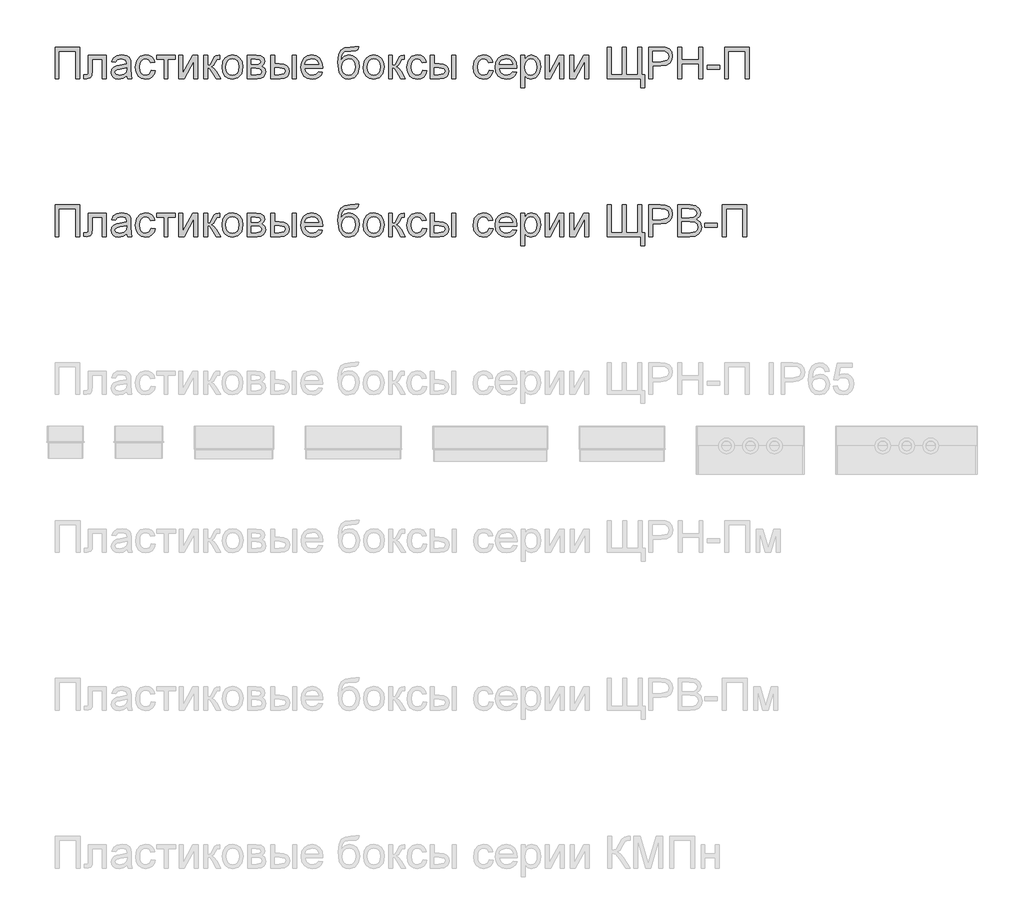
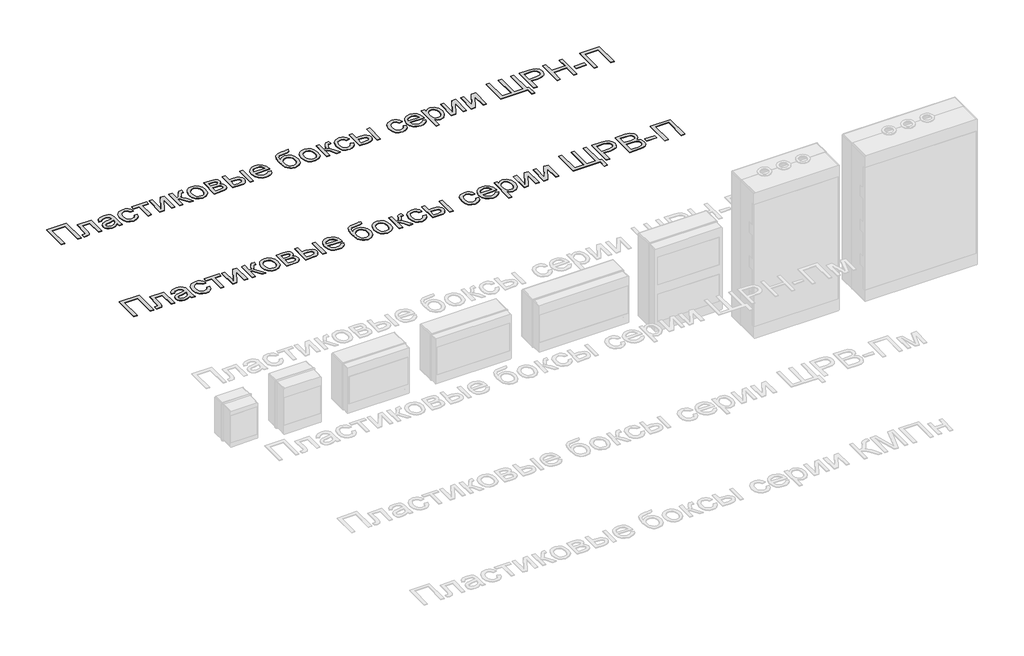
# One storey, part 25 of 25: 2 proxies.
"""IFC4 building model written with IfcOpenShell, lengths in millimetres."""

from ifc_helpers import new_model, si_unit, frame, origin, place, context, project, spatial, polyline, outline, extrude, element, save

model = new_model("IFC4")

# Units and contexts
model_context = context("Model", 3, world=origin())
ifc_project = project(units=[si_unit("LENGTHUNIT", "METRE", prefix="MILLI")], contexts=[model_context])

# Site, building, storey
site = spatial("IfcSite", under=ifc_project)
building = spatial("IfcBuilding", under=site)
storey = spatial("IfcBuildingStorey", under=building, Name="Этаж 01", Elevation=0.0)

# Proxies
placement = place(None, origin())
element("IfcBuildingElementProxy", 1, Name="Надпись на модели 1", ObjectType="Надпись на модели 1", at=placement, inside=storey, context=model_context, shape_type="SweptSolid", body=[
    extrude(outline(polyline([(-19039.0125911, 18636.6915941), (-18960.5310988, 18636.6915941), (-18960.5310988, 18536.235284), (-18973.0881375, 18536.235284), (-18973.0881375, 18624.1345554), (-19026.4555523, 18624.1345554), (-19026.4555523, 18536.235284), (-19039.0125911, 18536.235284), (-19039.0125911, 18636.6915941)])), frame((0.0, 0.0, 40.0), z_axis=(0.0, 0.0, 1.0), x_axis=(1.0, 0.0, 0.0)), (0.0, 0.0, 1.0), 2.0),
    extrude(outline(polyline([(-18933.8473914, 18610.0078868), (-18877.3407169, 18610.0078868), (-18877.3407169, 18536.3088604), (-18889.8977557, 18536.3088604), (-18889.8977557, 18597.450848), (-18921.2903526, 18597.450848), (-18921.2903526, 18562.2568038), (-18922.1364812, 18546.0209451), (-18926.7840571, 18539.1660772), (-18937.771466, 18536.235284), (-18947.97406, 18536.8729461), (-18947.97406, 18548.7923228), (-18942.3577282, 18548.7923228), (-18936.6800828, 18549.564875), (-18934.4114771, 18552.0174216), (-18933.8473914, 18562.9680423), (-18933.8473914, 18610.0078868)])), frame((0.0, 0.0, 40.0), z_axis=(0.0, 0.0, 1.0), x_axis=(1.0, 0.0, 0.0)), (0.0, 0.0, 1.0), 2.0),
    extrude(outline(polyline([(-18811.4162634, 18545.6530631), (-18823.5931574, 18537.1427262), (-18837.0453757, 18534.6656541), (-18847.5392096, 18536.1555762), (-18855.28006, 18540.6253425), (-18860.0533288, 18547.4127653), (-18861.6444185, 18555.8556571), (-18859.2409228, 18565.7884709), (-18852.9256152, 18572.998958), (-18844.1332355, 18577.1192364), (-18833.2684539, 18579.0076973), (-18811.4898398, 18583.3241794), (-18811.4162634, 18586.1200825), (-18814.8743541, 18595.3907088), (-18828.7557681, 18599.0204778), (-18841.4599597, 18596.6047194), (-18847.5177499, 18588.0330689), (-18860.0747886, 18589.6026988), (-18854.6423978, 18601.8654319), (-18843.7040398, 18609.0513936), (-18827.1370873, 18611.5775166), (-18811.9190355, 18609.3456992), (-18803.3228595, 18603.7416301), (-18799.4723613, 18595.2190306), (-18798.8592246, 18584.2316216), (-18798.8592246, 18568.6088996), (-18798.2215625, 18546.7934973), (-18795.7199649, 18536.235284), (-18808.2770037, 18536.235284), (-18811.4162634, 18545.6530631)]), holes=[polyline([(-18811.4162634, 18570.7671406), (-18831.6742986, 18566.9166424), (-18842.4777665, 18564.8810287), (-18847.3705971, 18561.5700907), (-18849.0873797, 18556.7385739), (-18845.3472461, 18549.9450197), (-18834.3720999, 18547.2226929), (-18821.6679083, 18550.2270625), (-18813.4764026, 18557.4988633), (-18811.4898398, 18567.210948), (-18811.4162634, 18570.7671406)])]), frame((0.0, 0.0, 40.0), z_axis=(0.0, 0.0, 1.0), x_axis=(1.0, 0.0, 0.0)), (0.0, 0.0, 1.0), 2.0),
    extrude(outline(polyline([(-18734.5044009, 18562.9189914), (-18721.9473622, 18561.3493615), (-18725.4483725, 18550.1810773), (-18732.0273288, 18541.7412512), (-18741.0649632, 18536.4345534), (-18751.9420075, 18534.6656541), (-18765.2991896, 18537.1335292), (-18775.7439726, 18544.5371544), (-18782.4854102, 18556.5515672), (-18784.732556, 18572.8518052), (-18780.8943205, 18593.7107144), (-18769.1956731, 18607.1138817), (-18752.1136858, 18611.5775166), (-18741.5033559, 18610.044675), (-18733.0206102, 18605.44615), (-18726.9352289, 18598.0271964), (-18723.516992, 18588.0330689), (-18736.0740308, 18586.4634391), (-18741.898829, 18595.8689554), (-18752.0155839, 18599.0204778), (-18760.1304476, 18597.4692421), (-18766.5714482, 18592.8155349), (-18770.7745, 18584.8079701), (-18772.1755172, 18573.1951618), (-18770.8051568, 18561.4260036), (-18766.6940755, 18553.3908477), (-18760.3695709, 18548.7647316), (-18752.3589404, 18547.2226929), (-18740.5254029, 18551.0731911), (-18734.5044009, 18562.9189914)])), frame((0.0, 0.0, 40.0), z_axis=(0.0, 0.0, 1.0), x_axis=(1.0, 0.0, 0.0)), (0.0, 0.0, 1.0), 2.0),
    extrude(outline(polyline([(-18717.2384726, 18610.0078868), (-18657.5925385, 18610.0078868), (-18657.5925385, 18597.450848), (-18681.1369862, 18597.450848), (-18681.1369862, 18536.235284), (-18693.6940249, 18536.235284), (-18693.6940249, 18597.450848), (-18717.2384726, 18597.450848), (-18717.2384726, 18610.0078868)])), frame((0.0, 0.0, 40.0), z_axis=(0.0, 0.0, 1.0), x_axis=(1.0, 0.0, 0.0)), (0.0, 0.0, 1.0), 2.0),
    extrude(outline(polyline([(-18646.6051296, 18610.0078868), (-18634.0480908, 18610.0078868), (-18634.0480908, 18553.746467), (-18603.1950541, 18610.0078868), (-18586.9591954, 18610.0078868), (-18586.9591954, 18536.235284), (-18599.5162342, 18536.235284), (-18599.5162342, 18592.1533473), (-18630.1730671, 18536.235284), (-18646.6051296, 18536.235284), (-18646.6051296, 18610.0078868)])), frame((0.0, 0.0, 40.0), z_axis=(0.0, 0.0, 1.0), x_axis=(1.0, 0.0, 0.0)), (0.0, 0.0, 1.0), 2.0),
    extrude(outline(polyline([(-18568.1236373, 18610.0078868), (-18555.5665985, 18610.0078868), (-18555.5665985, 18578.6152898), (-18547.1543635, 18580.8716327), (-18540.2627075, 18594.0172827), (-18534.5360111, 18605.3603109), (-18529.483765, 18609.0513936), (-18520.2989779, 18610.0078868), (-18517.8954822, 18610.0078868), (-18517.8954822, 18597.3772716), (-18521.2799965, 18597.450848), (-18527.4113631, 18596.1264728), (-18531.7278452, 18587.8613906), (-18536.792354, 18578.9218582), (-18543.8924765, 18574.5440624), (-18535.9707509, 18569.6573633), (-18528.196178, 18559.3627988), (-18514.7562225, 18536.235284), (-18529.0300439, 18536.235284), (-18542.2002193, 18558.8722894), (-18548.8220952, 18568.449484), (-18555.5665985, 18570.7671406), (-18555.5665985, 18536.235284), (-18568.1236373, 18536.235284), (-18568.1236373, 18610.0078868)])), frame((0.0, 0.0, 40.0), z_axis=(0.0, 0.0, 1.0), x_axis=(1.0, 0.0, 0.0)), (0.0, 0.0, 1.0), 2.0),
    extrude(outline(polyline([(-18510.0473329, 18573.1215854), (-18507.3311375, 18590.9086798), (-18499.1825514, 18603.4105363), (-18489.1148474, 18609.5357715), (-18477.0605807, 18611.5775166), (-18463.8689455, 18609.0912475), (-18453.332192, 18601.63244), (-18446.4252076, 18589.7897054), (-18444.1228794, 18574.151655), (-18448.1941068, 18551.8089551), (-18460.0521698, 18539.1660772), (-18477.0605807, 18534.6656541), (-18490.4116315, 18537.1427262), (-18500.9361222, 18544.5739426), (-18507.7695303, 18556.6649975), (-18510.0473329, 18573.1215854)]), holes=[polyline([(-18497.4902942, 18573.1461108), (-18496.0371603, 18561.7816229), (-18491.6777587, 18553.6851533), (-18485.1171964, 18548.838308), (-18477.0605807, 18547.2226929), (-18469.0407532, 18548.8475051), (-18462.4924537, 18553.7219415), (-18458.1330521, 18561.92571), (-18456.6799182, 18573.5385183), (-18458.1422491, 18584.5719125), (-18462.5292419, 18592.5580175), (-18469.0867385, 18597.4048627), (-18477.0605807, 18599.0204778), (-18485.1171964, 18597.4109941), (-18491.6777587, 18592.5825429), (-18496.0371603, 18584.5044674), (-18497.4902942, 18573.1461108)])]), frame((0.0, 0.0, 40.0), z_axis=(0.0, 0.0, 1.0), x_axis=(1.0, 0.0, 0.0)), (0.0, 0.0, 1.0), 2.0),
    extrude(outline(polyline([(-18429.9962108, 18610.0078868), (-18402.3314848, 18610.0078868), (-18387.1624838, 18608.3278923), (-18378.6276215, 18602.1720003), (-18375.0591662, 18591.4421087), (-18377.2174072, 18582.7233055), (-18383.7166558, 18576.5060997), (-18375.2798954, 18569.7002828), (-18371.9199065, 18557.8667453), (-18374.0474907, 18548.2956821), (-18379.1058681, 18541.5573102), (-18387.1134329, 18537.5657905), (-18398.0885791, 18536.235284), (-18429.9962108, 18536.235284), (-18429.9962108, 18610.0078868)]), holes=[polyline([(-18417.439172, 18548.7923228), (-18402.0371792, 18548.7923228), (-18388.3764944, 18551.0609284), (-18384.4769453, 18558.8968149), (-18386.6229236, 18564.9423424), (-18392.2147299, 18568.4617468), (-18403.2634525, 18569.1975108), (-18417.439172, 18569.1975108), (-18417.439172, 18548.7923228)]), polyline([(-18417.439172, 18581.7545495), (-18405.0292861, 18581.7545495), (-18394.7899039, 18582.3922117), (-18389.8112342, 18584.9428602), (-18387.616205, 18589.5536478), (-18391.4667032, 18595.7095399), (-18404.6368786, 18597.450848), (-18417.439172, 18597.450848), (-18417.439172, 18581.7545495)])]), frame((0.0, 0.0, 40.0), z_axis=(0.0, 0.0, 1.0), x_axis=(1.0, 0.0, 0.0)), (0.0, 0.0, 1.0), 2.0),
    extrude(outline(polyline([(-18287.1598948, 18610.0078868), (-18274.602856, 18610.0078868), (-18274.602856, 18536.235284), (-18287.1598948, 18536.235284), (-18287.1598948, 18610.0078868)])), frame((0.0, 0.0, 40.0), z_axis=(0.0, 0.0, 1.0), x_axis=(1.0, 0.0, 0.0)), (0.0, 0.0, 1.0), 2.0),
    extrude(outline(polyline([(-18356.223608, 18610.0078868), (-18343.6665693, 18610.0078868), (-18343.6665693, 18583.3241794), (-18328.1419491, 18583.3241794), (-18314.7234533, 18581.7514838), (-18304.7814424, 18577.0333973), (-18298.628616, 18569.5500643), (-18296.5776739, 18559.6816298), (-18298.2975222, 18550.6961121), (-18303.4570672, 18543.1146773), (-18312.393534, 18537.9551323), (-18325.4441478, 18536.235284), (-18356.223608, 18536.235284), (-18356.223608, 18610.0078868)]), holes=[polyline([(-18343.6665693, 18548.7923228), (-18330.766174, 18548.7923228), (-18314.1133823, 18551.4288104), (-18309.1347126, 18559.6571044), (-18312.8257953, 18567.3826263), (-18329.1229677, 18570.7671406), (-18343.6665693, 18570.7671406), (-18343.6665693, 18548.7923228)])]), frame((0.0, 0.0, 40.0), z_axis=(0.0, 0.0, 1.0), x_axis=(1.0, 0.0, 0.0)), (0.0, 0.0, 1.0), 2.0),
    extrude(outline(polyline([(-18204.1166658, 18558.2101018), (-18191.8048817, 18556.640472), (-18196.2409254, 18547.3637143), (-18203.3195881, 18540.4291387), (-18212.8814543, 18536.1065253), (-18224.7671084, 18534.6656541), (-18239.5007823, 18537.1519233), (-18250.8376791, 18544.6107308), (-18258.0665603, 18556.5576985), (-18260.4761874, 18572.5084487), (-18258.0420349, 18588.9956935), (-18250.7395773, 18601.3258717), (-18239.5559646, 18609.0146054), (-18225.4783469, 18611.5775166), (-18211.839122, 18609.0207367), (-18200.9406179, 18601.3503971), (-18193.7945101, 18589.0447444), (-18191.4124742, 18572.5820251), (-18191.4860506, 18569.1975108), (-18247.9191486, 18569.1975108), (-18245.7455792, 18559.7981258), (-18240.6963988, 18552.8880756), (-18233.4092696, 18548.6390386), (-18224.5218538, 18547.2226929), (-18212.2100697, 18549.8469178), (-18204.1166658, 18558.2101018)]), holes=[polyline([(-18247.9191486, 18581.7545495), (-18203.969513, 18581.7545495), (-18208.9972336, 18593.1343659), (-18216.3180853, 18597.5489499), (-18225.5273979, 18599.0204778), (-18240.9907044, 18594.323851), (-18245.8559438, 18588.8332123), (-18247.9191486, 18581.7545495)])]), frame((0.0, 0.0, 40.0), z_axis=(0.0, 0.0, 1.0), x_axis=(1.0, 0.0, 0.0)), (0.0, 0.0, 1.0), 2.0),
    extrude(outline(polyline([(-18087.8169043, 18638.261224), (-18076.8294954, 18638.261224), (-18080.066857, 18628.4633002), (-18086.4680037, 18624.9193703), (-18101.8454711, 18624.1345554), (-18122.5572274, 18621.2405503), (-18130.5034785, 18611.9699241), (-18133.1890171, 18595.5623871), (-18122.3119728, 18607.5798656), (-18108.2956687, 18611.5775166), (-18095.2297266, 18609.0360652), (-18084.6285937, 18601.4117108), (-18077.6020476, 18589.4524803), (-18075.2598656, 18573.9064003), (-18079.9074415, 18552.2994644), (-18090.9316386, 18539.2641791), (-18108.2956687, 18534.6656541), (-18119.6294999, 18536.1463792), (-18128.1245083, 18540.5885543), (-18138.9770271, 18555.7452925), (-18142.753949, 18587.9104416), (-18140.371913, 18612.0036466), (-18133.2258053, 18626.6974666), (-18121.1378161, 18634.1930623), (-18103.9301357, 18636.6915941), (-18089.9506199, 18636.973637), (-18087.8169043, 18638.261224)]), holes=[polyline([(-18087.8169043, 18574.2988078), (-18089.1780677, 18584.179505), (-18093.2615579, 18592.0920336), (-18099.8221201, 18597.2883668), (-18108.6144998, 18599.0204778), (-18117.7808929, 18597.1902649), (-18124.5805784, 18591.6996261), (-18128.7928272, 18583.1494354), (-18130.1969102, 18572.1405667), (-18128.6456744, 18561.4689232), (-18123.9919672, 18553.6361024), (-18117.063523, 18548.8260453), (-18108.6880762, 18547.2226929), (-18100.2697099, 18549.0774313), (-18093.6049144, 18554.6416465), (-18089.2639069, 18563.2654136), (-18087.8169043, 18574.2988078)])]), frame((0.0, 0.0, 40.0), z_axis=(0.0, 0.0, 1.0), x_axis=(1.0, 0.0, 0.0)), (0.0, 0.0, 1.0), 2.0),
    extrude(outline(polyline([(-18062.7028268, 18573.1215854), (-18059.9866314, 18590.9086798), (-18051.8380452, 18603.4105363), (-18041.7703413, 18609.5357715), (-18029.7160746, 18611.5775166), (-18016.5244394, 18609.0912475), (-18005.9876859, 18601.63244), (-17999.0807014, 18589.7897054), (-17996.7783733, 18574.151655), (-18000.8496007, 18551.8089551), (-18012.7076637, 18539.1660772), (-18029.7160746, 18534.6656541), (-18043.0671253, 18537.1427262), (-18053.5916161, 18544.5739426), (-18060.4250241, 18556.6649975), (-18062.7028268, 18573.1215854)]), holes=[polyline([(-18050.145788, 18573.1461108), (-18048.6926542, 18561.7816229), (-18044.3332525, 18553.6851533), (-18037.7726903, 18548.838308), (-18029.7160746, 18547.2226929), (-18021.6962471, 18548.8475051), (-18015.1479476, 18553.7219415), (-18010.7885459, 18561.92571), (-18009.335412, 18573.5385183), (-18010.797743, 18584.5719125), (-18015.1847358, 18592.5580175), (-18021.7422323, 18597.4048627), (-18029.7160746, 18599.0204778), (-18037.7726903, 18597.4109941), (-18044.3332525, 18592.5825429), (-18048.6926542, 18584.5044674), (-18050.145788, 18573.1461108)])]), frame((0.0, 0.0, 40.0), z_axis=(0.0, 0.0, 1.0), x_axis=(1.0, 0.0, 0.0)), (0.0, 0.0, 1.0), 2.0),
    extrude(outline(polyline([(-17982.6517047, 18610.0078868), (-17970.0946659, 18610.0078868), (-17970.0946659, 18578.6152898), (-17961.6824309, 18580.8716327), (-17954.7907749, 18594.0172827), (-17949.0640785, 18605.3603109), (-17944.0118324, 18609.0513936), (-17934.8270453, 18610.0078868), (-17932.4235496, 18610.0078868), (-17932.4235496, 18597.3772716), (-17935.8080639, 18597.450848), (-17941.9394305, 18596.1264728), (-17946.2559126, 18587.8613906), (-17951.3204214, 18578.9218582), (-17958.4205439, 18574.5440624), (-17950.4988183, 18569.6573633), (-17942.7242455, 18559.3627988), (-17929.2842899, 18536.235284), (-17943.5581113, 18536.235284), (-17956.7282867, 18558.8722894), (-17963.3501626, 18568.449484), (-17970.0946659, 18570.7671406), (-17970.0946659, 18536.235284), (-17982.6517047, 18536.235284), (-17982.6517047, 18610.0078868)])), frame((0.0, 0.0, 40.0), z_axis=(0.0, 0.0, 1.0), x_axis=(1.0, 0.0, 0.0)), (0.0, 0.0, 1.0), 2.0),
    extrude(outline(polyline([(-17874.3472453, 18562.9189914), (-17861.7902065, 18561.3493615), (-17865.2912168, 18550.1810773), (-17871.8701732, 18541.7412512), (-17880.9078075, 18536.4345534), (-17891.7848519, 18534.6656541), (-17905.142034, 18537.1335292), (-17915.5868169, 18544.5371544), (-17922.3282545, 18556.5515672), (-17924.5754004, 18572.8518052), (-17920.7371649, 18593.7107144), (-17909.0385174, 18607.1138817), (-17891.9565301, 18611.5775166), (-17881.3462002, 18610.044675), (-17872.8634546, 18605.44615), (-17866.7780732, 18598.0271964), (-17863.3598364, 18588.0330689), (-17875.9168751, 18586.4634391), (-17881.7416734, 18595.8689554), (-17891.8584283, 18599.0204778), (-17899.9732919, 18597.4692421), (-17906.4142925, 18592.8155349), (-17910.6173443, 18584.8079701), (-17912.0183616, 18573.1951618), (-17910.6480012, 18561.4260036), (-17906.5369199, 18553.3908477), (-17900.2124152, 18548.7647316), (-17892.2017848, 18547.2226929), (-17880.3682473, 18551.0731911), (-17874.3472453, 18562.9189914)])), frame((0.0, 0.0, 40.0), z_axis=(0.0, 0.0, 1.0), x_axis=(1.0, 0.0, 0.0)), (0.0, 0.0, 1.0), 2.0),
    extrude(outline(polyline([(-17781.7390844, 18610.0078868), (-17769.1820456, 18610.0078868), (-17769.1820456, 18536.235284), (-17781.7390844, 18536.235284), (-17781.7390844, 18610.0078868)])), frame((0.0, 0.0, 40.0), z_axis=(0.0, 0.0, 1.0), x_axis=(1.0, 0.0, 0.0)), (0.0, 0.0, 1.0), 2.0),
    extrude(outline(polyline([(-17850.8027976, 18610.0078868), (-17838.2457588, 18610.0078868), (-17838.2457588, 18583.3241794), (-17822.7211386, 18583.3241794), (-17809.3026428, 18581.7514838), (-17799.3606319, 18577.0333973), (-17793.2078056, 18569.5500643), (-17791.1568634, 18559.6816298), (-17792.8767118, 18550.6961121), (-17798.0362567, 18543.1146773), (-17806.9727235, 18537.9551323), (-17820.0233373, 18536.235284), (-17850.8027976, 18536.235284), (-17850.8027976, 18610.0078868)]), holes=[polyline([(-17838.2457588, 18548.7923228), (-17825.3453635, 18548.7923228), (-17808.6925719, 18551.4288104), (-17803.7139022, 18559.6571044), (-17807.4049849, 18567.3826263), (-17823.7021573, 18570.7671406), (-17838.2457588, 18570.7671406), (-17838.2457588, 18548.7923228)])]), frame((0.0, 0.0, 40.0), z_axis=(0.0, 0.0, 1.0), x_axis=(1.0, 0.0, 0.0)), (0.0, 0.0, 1.0), 2.0),
    extrude(outline(polyline([(-17664.0168459, 18562.9189914), (-17651.4598071, 18561.3493615), (-17654.9608175, 18550.1810773), (-17661.5397738, 18541.7412512), (-17670.5774082, 18536.4345534), (-17681.4544525, 18534.6656541), (-17694.8116346, 18537.1335292), (-17705.2564176, 18544.5371544), (-17711.9978551, 18556.5515672), (-17714.245001, 18572.8518052), (-17710.4067655, 18593.7107144), (-17698.708118, 18607.1138817), (-17681.6261307, 18611.5775166), (-17671.0158009, 18610.044675), (-17662.5330552, 18605.44615), (-17656.4476739, 18598.0271964), (-17653.029437, 18588.0330689), (-17665.5864758, 18586.4634391), (-17671.411274, 18595.8689554), (-17681.5280289, 18599.0204778), (-17689.6428926, 18597.4692421), (-17696.0838932, 18592.8155349), (-17700.2869449, 18584.8079701), (-17701.6879622, 18573.1951618), (-17700.3176018, 18561.4260036), (-17696.2065205, 18553.3908477), (-17689.8820158, 18548.7647316), (-17681.8713854, 18547.2226929), (-17670.0378479, 18551.0731911), (-17664.0168459, 18562.9189914)])), frame((0.0, 0.0, 40.0), z_axis=(0.0, 0.0, 1.0), x_axis=(1.0, 0.0, 0.0)), (0.0, 0.0, 1.0), 2.0),
    extrude(outline(polyline([(-17588.8217661, 18558.2101018), (-17576.509982, 18556.640472), (-17580.9460257, 18547.3637143), (-17588.0246884, 18540.4291387), (-17597.5865546, 18536.1065253), (-17609.4722088, 18534.6656541), (-17624.2058827, 18537.1519233), (-17635.5427795, 18544.6107308), (-17642.7716607, 18556.5576985), (-17645.1812878, 18572.5084487), (-17642.7471352, 18588.9956935), (-17635.4446776, 18601.3258717), (-17624.261065, 18609.0146054), (-17610.1834473, 18611.5775166), (-17596.5442223, 18609.0207367), (-17585.6457182, 18601.3503971), (-17578.4996104, 18589.0447444), (-17576.1175745, 18572.5820251), (-17576.1911509, 18569.1975108), (-17632.624249, 18569.1975108), (-17630.4506795, 18559.7981258), (-17625.4014991, 18552.8880756), (-17618.11437, 18548.6390386), (-17609.2269541, 18547.2226929), (-17596.91517, 18549.8469178), (-17588.8217661, 18558.2101018)]), holes=[polyline([(-17632.624249, 18581.7545495), (-17588.6746133, 18581.7545495), (-17593.7023339, 18593.1343659), (-17601.0231856, 18597.5489499), (-17610.2324982, 18599.0204778), (-17625.6958047, 18594.323851), (-17630.5610441, 18588.8332123), (-17632.624249, 18581.7545495)])]), frame((0.0, 0.0, 40.0), z_axis=(0.0, 0.0, 1.0), x_axis=(1.0, 0.0, 0.0)), (0.0, 0.0, 1.0), 2.0),
    extrude(outline(polyline([(-17563.5605358, 18507.9819468), (-17563.5605358, 18610.0078868), (-17551.003497, 18610.0078868), (-17551.003497, 18597.6961027), (-17542.3214819, 18608.1071631), (-17530.598309, 18611.5775166), (-17514.6812813, 18606.7214743), (-17504.2824836, 18593.036264), (-17500.7753419, 18573.6856711), (-17504.7362047, 18553.3417968), (-17516.2386484, 18539.4849083), (-17532.1188879, 18534.6656541), (-17543.0449832, 18537.890753), (-17551.003497, 18546.0454705), (-17551.003497, 18507.9819468), (-17563.5605358, 18507.9819468)]), holes=[polyline([(-17551.003497, 18572.5329742), (-17549.6453993, 18561.2757851), (-17545.5711062, 18553.4031104), (-17539.5593013, 18548.7677973), (-17532.388668, 18547.2226929), (-17525.1015388, 18548.8229796), (-17518.9364497, 18553.6238396), (-17514.7333979, 18561.7846886), (-17513.3323807, 18573.4649419), (-17514.6996754, 18584.6608173), (-17518.8015597, 18592.6438566), (-17524.8041676, 18597.4263225), (-17531.8736332, 18599.0204778), (-17538.9706901, 18597.325155), (-17545.2032242, 18592.2391864), (-17549.5534288, 18583.9219876), (-17551.003497, 18572.5329742)])]), frame((0.0, 0.0, 40.0), z_axis=(0.0, 0.0, 1.0), x_axis=(1.0, 0.0, 0.0)), (0.0, 0.0, 1.0), 2.0),
    extrude(outline(polyline([(-17486.6486733, 18610.0078868), (-17474.0916345, 18610.0078868), (-17474.0916345, 18553.746467), (-17443.2385979, 18610.0078868), (-17427.0027391, 18610.0078868), (-17427.0027391, 18536.235284), (-17439.5597779, 18536.235284), (-17439.5597779, 18592.1533473), (-17470.2166108, 18536.235284), (-17486.6486733, 18536.235284), (-17486.6486733, 18610.0078868)])), frame((0.0, 0.0, 40.0), z_axis=(0.0, 0.0, 1.0), x_axis=(1.0, 0.0, 0.0)), (0.0, 0.0, 1.0), 2.0),
    extrude(outline(polyline([(-17408.167181, 18610.0078868), (-17395.6101422, 18610.0078868), (-17395.6101422, 18553.746467), (-17364.7571056, 18610.0078868), (-17348.5212468, 18610.0078868), (-17348.5212468, 18536.235284), (-17361.0782856, 18536.235284), (-17361.0782856, 18592.1533473), (-17391.7351185, 18536.235284), (-17408.167181, 18536.235284), (-17408.167181, 18610.0078868)])), frame((0.0, 0.0, 40.0), z_axis=(0.0, 0.0, 1.0), x_axis=(1.0, 0.0, 0.0)), (0.0, 0.0, 1.0), 2.0),
    extrude(outline(polyline([(-17290.4449425, 18636.6915941), (-17277.8879038, 18636.6915941), (-17277.8879038, 18548.7923228), (-17241.7864173, 18548.7923228), (-17241.7864173, 18636.6915941), (-17229.2293785, 18636.6915941), (-17229.2293785, 18548.7923228), (-17193.1278921, 18548.7923228), (-17193.1278921, 18636.6915941), (-17180.5708533, 18636.6915941), (-17180.5708533, 18548.7923228), (-17171.1530742, 18548.7923228), (-17171.1530742, 18507.9819468), (-17183.710113, 18507.9819468), (-17183.710113, 18536.235284), (-17290.4449425, 18536.235284), (-17290.4449425, 18636.6915941)])), frame((0.0, 0.0, 40.0), z_axis=(0.0, 0.0, 1.0), x_axis=(1.0, 0.0, 0.0)), (0.0, 0.0, 1.0), 2.0),
    extrude(outline(polyline([(-17158.5960355, 18536.235284), (-17158.5960355, 18636.6915941), (-17121.3663776, 18636.6915941), (-17106.3567921, 18635.735101), (-17094.1553726, 18631.0384742), (-17086.2459097, 18621.3263895), (-17083.2538029, 18607.6289165), (-17085.2740881, 18595.7892476), (-17091.334944, 18585.9238788), (-17102.6687751, 18579.2652147), (-17120.5079862, 18577.04566), (-17146.0389967, 18577.04566), (-17146.0389967, 18536.235284), (-17158.5960355, 18536.235284)]), holes=[polyline([(-17146.0389967, 18589.6026988), (-17119.7722222, 18589.6026988), (-17101.2800206, 18594.2134864), (-17097.1781364, 18599.7623732), (-17095.8108416, 18607.1874581), (-17099.0359404, 18617.5862559), (-17107.5094891, 18623.2761641), (-17120.0665278, 18624.1345554), (-17146.0389967, 18624.1345554), (-17146.0389967, 18589.6026988)])]), frame((0.0, 0.0, 40.0), z_axis=(0.0, 0.0, 1.0), x_axis=(1.0, 0.0, 0.0)), (0.0, 0.0, 1.0), 2.0),
    extrude(outline(polyline([(-17065.9878745, 18536.235284), (-17065.9878745, 18636.6915941), (-17053.4308358, 18636.6915941), (-17053.4308358, 18595.8812181), (-17000.063421, 18595.8812181), (-17000.063421, 18636.6915941), (-16987.5063822, 18636.6915941), (-16987.5063822, 18536.235284), (-17000.063421, 18536.235284), (-17000.063421, 18583.3241794), (-17053.4308358, 18583.3241794), (-17053.4308358, 18536.235284), (-17065.9878745, 18536.235284)])), frame((0.0, 0.0, 40.0), z_axis=(0.0, 0.0, 1.0), x_axis=(1.0, 0.0, 0.0)), (0.0, 0.0, 1.0), 2.0),
    extrude(outline(polyline([(-16973.3797136, 18566.0582511), (-16973.3797136, 18578.6152898), (-16934.1389675, 18578.6152898), (-16934.1389675, 18566.0582511), (-16973.3797136, 18566.0582511)])), frame((0.0, 0.0, 40.0), z_axis=(0.0, 0.0, 1.0), x_axis=(1.0, 0.0, 0.0)), (0.0, 0.0, 1.0), 2.0),
    extrude(outline(polyline([(-16918.442669, 18636.6915941), (-16839.9611767, 18636.6915941), (-16839.9611767, 18536.235284), (-16852.5182155, 18536.235284), (-16852.5182155, 18624.1345554), (-16905.8856302, 18624.1345554), (-16905.8856302, 18536.235284), (-16918.442669, 18536.235284), (-16918.442669, 18636.6915941)])), frame((0.0, 0.0, 40.0), z_axis=(0.0, 0.0, 1.0), x_axis=(1.0, 0.0, 0.0)), (0.0, 0.0, 1.0), 2.0),
])
element("IfcBuildingElementProxy", 2, Name="Надпись на модели 1", ObjectType="Надпись на модели 1", at=placement, inside=storey, context=model_context, shape_type="SweptSolid", body=[
    extrude(outline(polyline([(-19039.0125911, 18136.6915941), (-18960.5310988, 18136.6915941), (-18960.5310988, 18036.235284), (-18973.0881375, 18036.235284), (-18973.0881375, 18124.1345554), (-19026.4555523, 18124.1345554), (-19026.4555523, 18036.235284), (-19039.0125911, 18036.235284), (-19039.0125911, 18136.6915941)])), frame((0.0, 0.0, 40.0), z_axis=(0.0, 0.0, 1.0), x_axis=(1.0, 0.0, 0.0)), (0.0, 0.0, 1.0), 2.0),
    extrude(outline(polyline([(-18933.8473914, 18110.0078868), (-18877.3407169, 18110.0078868), (-18877.3407169, 18036.3088604), (-18889.8977557, 18036.3088604), (-18889.8977557, 18097.450848), (-18921.2903526, 18097.450848), (-18921.2903526, 18062.2568038), (-18922.1364812, 18046.0209451), (-18926.7840571, 18039.1660772), (-18937.771466, 18036.235284), (-18947.97406, 18036.8729461), (-18947.97406, 18048.7923228), (-18942.3577282, 18048.7923228), (-18936.6800828, 18049.564875), (-18934.4114771, 18052.0174216), (-18933.8473914, 18062.9680423), (-18933.8473914, 18110.0078868)])), frame((0.0, 0.0, 40.0), z_axis=(0.0, 0.0, 1.0), x_axis=(1.0, 0.0, 0.0)), (0.0, 0.0, 1.0), 2.0),
    extrude(outline(polyline([(-18811.4162634, 18045.6530631), (-18823.5931574, 18037.1427262), (-18837.0453757, 18034.6656541), (-18847.5392096, 18036.1555762), (-18855.28006, 18040.6253425), (-18860.0533288, 18047.4127653), (-18861.6444185, 18055.8556571), (-18859.2409228, 18065.7884709), (-18852.9256152, 18072.998958), (-18844.1332355, 18077.1192364), (-18833.2684539, 18079.0076973), (-18811.4898398, 18083.3241794), (-18811.4162634, 18086.1200825), (-18814.8743541, 18095.3907088), (-18828.7557681, 18099.0204778), (-18841.4599597, 18096.6047194), (-18847.5177499, 18088.0330689), (-18860.0747886, 18089.6026988), (-18854.6423978, 18101.8654319), (-18843.7040398, 18109.0513936), (-18827.1370873, 18111.5775166), (-18811.9190355, 18109.3456992), (-18803.3228595, 18103.7416301), (-18799.4723613, 18095.2190306), (-18798.8592246, 18084.2316216), (-18798.8592246, 18068.6088996), (-18798.2215625, 18046.7934973), (-18795.7199649, 18036.235284), (-18808.2770037, 18036.235284), (-18811.4162634, 18045.6530631)]), holes=[polyline([(-18811.4162634, 18070.7671406), (-18831.6742986, 18066.9166424), (-18842.4777665, 18064.8810287), (-18847.3705971, 18061.5700907), (-18849.0873797, 18056.7385739), (-18845.3472461, 18049.9450197), (-18834.3720999, 18047.2226929), (-18821.6679083, 18050.2270625), (-18813.4764026, 18057.4988633), (-18811.4898398, 18067.210948), (-18811.4162634, 18070.7671406)])]), frame((0.0, 0.0, 40.0), z_axis=(0.0, 0.0, 1.0), x_axis=(1.0, 0.0, 0.0)), (0.0, 0.0, 1.0), 2.0),
    extrude(outline(polyline([(-18734.5044009, 18062.9189914), (-18721.9473622, 18061.3493615), (-18725.4483725, 18050.1810773), (-18732.0273288, 18041.7412512), (-18741.0649632, 18036.4345534), (-18751.9420075, 18034.6656541), (-18765.2991896, 18037.1335292), (-18775.7439726, 18044.5371544), (-18782.4854102, 18056.5515672), (-18784.732556, 18072.8518052), (-18780.8943205, 18093.7107144), (-18769.1956731, 18107.1138817), (-18752.1136858, 18111.5775166), (-18741.5033559, 18110.044675), (-18733.0206102, 18105.44615), (-18726.9352289, 18098.0271964), (-18723.516992, 18088.0330689), (-18736.0740308, 18086.4634391), (-18741.898829, 18095.8689554), (-18752.0155839, 18099.0204778), (-18760.1304476, 18097.4692421), (-18766.5714482, 18092.8155349), (-18770.7745, 18084.8079701), (-18772.1755172, 18073.1951618), (-18770.8051568, 18061.4260036), (-18766.6940755, 18053.3908477), (-18760.3695709, 18048.7647316), (-18752.3589404, 18047.2226929), (-18740.5254029, 18051.0731911), (-18734.5044009, 18062.9189914)])), frame((0.0, 0.0, 40.0), z_axis=(0.0, 0.0, 1.0), x_axis=(1.0, 0.0, 0.0)), (0.0, 0.0, 1.0), 2.0),
    extrude(outline(polyline([(-18717.2384726, 18110.0078868), (-18657.5925385, 18110.0078868), (-18657.5925385, 18097.450848), (-18681.1369862, 18097.450848), (-18681.1369862, 18036.235284), (-18693.6940249, 18036.235284), (-18693.6940249, 18097.450848), (-18717.2384726, 18097.450848), (-18717.2384726, 18110.0078868)])), frame((0.0, 0.0, 40.0), z_axis=(0.0, 0.0, 1.0), x_axis=(1.0, 0.0, 0.0)), (0.0, 0.0, 1.0), 2.0),
    extrude(outline(polyline([(-18646.6051296, 18110.0078868), (-18634.0480908, 18110.0078868), (-18634.0480908, 18053.746467), (-18603.1950541, 18110.0078868), (-18586.9591954, 18110.0078868), (-18586.9591954, 18036.235284), (-18599.5162342, 18036.235284), (-18599.5162342, 18092.1533473), (-18630.1730671, 18036.235284), (-18646.6051296, 18036.235284), (-18646.6051296, 18110.0078868)])), frame((0.0, 0.0, 40.0), z_axis=(0.0, 0.0, 1.0), x_axis=(1.0, 0.0, 0.0)), (0.0, 0.0, 1.0), 2.0),
    extrude(outline(polyline([(-18568.1236373, 18110.0078868), (-18555.5665985, 18110.0078868), (-18555.5665985, 18078.6152898), (-18547.1543635, 18080.8716327), (-18540.2627075, 18094.0172827), (-18534.5360111, 18105.3603109), (-18529.483765, 18109.0513936), (-18520.2989779, 18110.0078868), (-18517.8954822, 18110.0078868), (-18517.8954822, 18097.3772716), (-18521.2799965, 18097.450848), (-18527.4113631, 18096.1264728), (-18531.7278452, 18087.8613906), (-18536.792354, 18078.9218582), (-18543.8924765, 18074.5440624), (-18535.9707509, 18069.6573633), (-18528.196178, 18059.3627988), (-18514.7562225, 18036.235284), (-18529.0300439, 18036.235284), (-18542.2002193, 18058.8722894), (-18548.8220952, 18068.449484), (-18555.5665985, 18070.7671406), (-18555.5665985, 18036.235284), (-18568.1236373, 18036.235284), (-18568.1236373, 18110.0078868)])), frame((0.0, 0.0, 40.0), z_axis=(0.0, 0.0, 1.0), x_axis=(1.0, 0.0, 0.0)), (0.0, 0.0, 1.0), 2.0),
    extrude(outline(polyline([(-18510.0473329, 18073.1215854), (-18507.3311375, 18090.9086798), (-18499.1825514, 18103.4105363), (-18489.1148474, 18109.5357715), (-18477.0605807, 18111.5775166), (-18463.8689455, 18109.0912475), (-18453.332192, 18101.63244), (-18446.4252076, 18089.7897054), (-18444.1228794, 18074.151655), (-18448.1941068, 18051.8089551), (-18460.0521698, 18039.1660772), (-18477.0605807, 18034.6656541), (-18490.4116315, 18037.1427262), (-18500.9361222, 18044.5739426), (-18507.7695303, 18056.6649975), (-18510.0473329, 18073.1215854)]), holes=[polyline([(-18497.4902942, 18073.1461108), (-18496.0371603, 18061.7816229), (-18491.6777587, 18053.6851533), (-18485.1171964, 18048.838308), (-18477.0605807, 18047.2226929), (-18469.0407532, 18048.8475051), (-18462.4924537, 18053.7219415), (-18458.1330521, 18061.92571), (-18456.6799182, 18073.5385183), (-18458.1422491, 18084.5719125), (-18462.5292419, 18092.5580175), (-18469.0867385, 18097.4048627), (-18477.0605807, 18099.0204778), (-18485.1171964, 18097.4109941), (-18491.6777587, 18092.5825429), (-18496.0371603, 18084.5044674), (-18497.4902942, 18073.1461108)])]), frame((0.0, 0.0, 40.0), z_axis=(0.0, 0.0, 1.0), x_axis=(1.0, 0.0, 0.0)), (0.0, 0.0, 1.0), 2.0),
    extrude(outline(polyline([(-18429.9962108, 18110.0078868), (-18402.3314848, 18110.0078868), (-18387.1624838, 18108.3278923), (-18378.6276215, 18102.1720003), (-18375.0591662, 18091.4421087), (-18377.2174072, 18082.7233055), (-18383.7166558, 18076.5060997), (-18375.2798954, 18069.7002828), (-18371.9199065, 18057.8667453), (-18374.0474907, 18048.2956821), (-18379.1058681, 18041.5573102), (-18387.1134329, 18037.5657905), (-18398.0885791, 18036.235284), (-18429.9962108, 18036.235284), (-18429.9962108, 18110.0078868)]), holes=[polyline([(-18417.439172, 18048.7923228), (-18402.0371792, 18048.7923228), (-18388.3764944, 18051.0609284), (-18384.4769453, 18058.8968149), (-18386.6229236, 18064.9423424), (-18392.2147299, 18068.4617468), (-18403.2634525, 18069.1975108), (-18417.439172, 18069.1975108), (-18417.439172, 18048.7923228)]), polyline([(-18417.439172, 18081.7545495), (-18405.0292861, 18081.7545495), (-18394.7899039, 18082.3922117), (-18389.8112342, 18084.9428602), (-18387.616205, 18089.5536478), (-18391.4667032, 18095.7095399), (-18404.6368786, 18097.450848), (-18417.439172, 18097.450848), (-18417.439172, 18081.7545495)])]), frame((0.0, 0.0, 40.0), z_axis=(0.0, 0.0, 1.0), x_axis=(1.0, 0.0, 0.0)), (0.0, 0.0, 1.0), 2.0),
    extrude(outline(polyline([(-18287.1598948, 18110.0078868), (-18274.602856, 18110.0078868), (-18274.602856, 18036.235284), (-18287.1598948, 18036.235284), (-18287.1598948, 18110.0078868)])), frame((0.0, 0.0, 40.0), z_axis=(0.0, 0.0, 1.0), x_axis=(1.0, 0.0, 0.0)), (0.0, 0.0, 1.0), 2.0),
    extrude(outline(polyline([(-18356.223608, 18110.0078868), (-18343.6665693, 18110.0078868), (-18343.6665693, 18083.3241794), (-18328.1419491, 18083.3241794), (-18314.7234533, 18081.7514838), (-18304.7814424, 18077.0333973), (-18298.628616, 18069.5500643), (-18296.5776739, 18059.6816298), (-18298.2975222, 18050.6961121), (-18303.4570672, 18043.1146773), (-18312.393534, 18037.9551323), (-18325.4441478, 18036.235284), (-18356.223608, 18036.235284), (-18356.223608, 18110.0078868)]), holes=[polyline([(-18343.6665693, 18048.7923228), (-18330.766174, 18048.7923228), (-18314.1133823, 18051.4288104), (-18309.1347126, 18059.6571044), (-18312.8257953, 18067.3826263), (-18329.1229677, 18070.7671406), (-18343.6665693, 18070.7671406), (-18343.6665693, 18048.7923228)])]), frame((0.0, 0.0, 40.0), z_axis=(0.0, 0.0, 1.0), x_axis=(1.0, 0.0, 0.0)), (0.0, 0.0, 1.0), 2.0),
    extrude(outline(polyline([(-18204.1166658, 18058.2101018), (-18191.8048817, 18056.640472), (-18196.2409254, 18047.3637143), (-18203.3195881, 18040.4291387), (-18212.8814543, 18036.1065253), (-18224.7671084, 18034.6656541), (-18239.5007823, 18037.1519233), (-18250.8376791, 18044.6107308), (-18258.0665603, 18056.5576985), (-18260.4761874, 18072.5084487), (-18258.0420349, 18088.9956935), (-18250.7395773, 18101.3258717), (-18239.5559646, 18109.0146054), (-18225.4783469, 18111.5775166), (-18211.839122, 18109.0207367), (-18200.9406179, 18101.3503971), (-18193.7945101, 18089.0447444), (-18191.4124742, 18072.5820251), (-18191.4860506, 18069.1975108), (-18247.9191486, 18069.1975108), (-18245.7455792, 18059.7981258), (-18240.6963988, 18052.8880756), (-18233.4092696, 18048.6390386), (-18224.5218538, 18047.2226929), (-18212.2100697, 18049.8469178), (-18204.1166658, 18058.2101018)]), holes=[polyline([(-18247.9191486, 18081.7545495), (-18203.969513, 18081.7545495), (-18208.9972336, 18093.1343659), (-18216.3180853, 18097.5489499), (-18225.5273979, 18099.0204778), (-18240.9907044, 18094.323851), (-18245.8559438, 18088.8332123), (-18247.9191486, 18081.7545495)])]), frame((0.0, 0.0, 40.0), z_axis=(0.0, 0.0, 1.0), x_axis=(1.0, 0.0, 0.0)), (0.0, 0.0, 1.0), 2.0),
    extrude(outline(polyline([(-18087.8169043, 18138.261224), (-18076.8294954, 18138.261224), (-18080.066857, 18128.4633002), (-18086.4680037, 18124.9193703), (-18101.8454711, 18124.1345554), (-18122.5572274, 18121.2405503), (-18130.5034785, 18111.9699241), (-18133.1890171, 18095.5623871), (-18122.3119728, 18107.5798656), (-18108.2956687, 18111.5775166), (-18095.2297266, 18109.0360652), (-18084.6285937, 18101.4117108), (-18077.6020476, 18089.4524803), (-18075.2598656, 18073.9064003), (-18079.9074415, 18052.2994644), (-18090.9316386, 18039.2641791), (-18108.2956687, 18034.6656541), (-18119.6294999, 18036.1463792), (-18128.1245083, 18040.5885543), (-18138.9770271, 18055.7452925), (-18142.753949, 18087.9104416), (-18140.371913, 18112.0036466), (-18133.2258053, 18126.6974666), (-18121.1378161, 18134.1930623), (-18103.9301357, 18136.6915941), (-18089.9506199, 18136.973637), (-18087.8169043, 18138.261224)]), holes=[polyline([(-18087.8169043, 18074.2988078), (-18089.1780677, 18084.179505), (-18093.2615579, 18092.0920336), (-18099.8221201, 18097.2883668), (-18108.6144998, 18099.0204778), (-18117.7808929, 18097.1902649), (-18124.5805784, 18091.6996261), (-18128.7928272, 18083.1494354), (-18130.1969102, 18072.1405667), (-18128.6456744, 18061.4689232), (-18123.9919672, 18053.6361024), (-18117.063523, 18048.8260453), (-18108.6880762, 18047.2226929), (-18100.2697099, 18049.0774313), (-18093.6049144, 18054.6416465), (-18089.2639069, 18063.2654136), (-18087.8169043, 18074.2988078)])]), frame((0.0, 0.0, 40.0), z_axis=(0.0, 0.0, 1.0), x_axis=(1.0, 0.0, 0.0)), (0.0, 0.0, 1.0), 2.0),
    extrude(outline(polyline([(-18062.7028268, 18073.1215854), (-18059.9866314, 18090.9086798), (-18051.8380452, 18103.4105363), (-18041.7703413, 18109.5357715), (-18029.7160746, 18111.5775166), (-18016.5244394, 18109.0912475), (-18005.9876859, 18101.63244), (-17999.0807014, 18089.7897054), (-17996.7783733, 18074.151655), (-18000.8496007, 18051.8089551), (-18012.7076637, 18039.1660772), (-18029.7160746, 18034.6656541), (-18043.0671253, 18037.1427262), (-18053.5916161, 18044.5739426), (-18060.4250241, 18056.6649975), (-18062.7028268, 18073.1215854)]), holes=[polyline([(-18050.145788, 18073.1461108), (-18048.6926542, 18061.7816229), (-18044.3332525, 18053.6851533), (-18037.7726903, 18048.838308), (-18029.7160746, 18047.2226929), (-18021.6962471, 18048.8475051), (-18015.1479476, 18053.7219415), (-18010.7885459, 18061.92571), (-18009.335412, 18073.5385183), (-18010.797743, 18084.5719125), (-18015.1847358, 18092.5580175), (-18021.7422323, 18097.4048627), (-18029.7160746, 18099.0204778), (-18037.7726903, 18097.4109941), (-18044.3332525, 18092.5825429), (-18048.6926542, 18084.5044674), (-18050.145788, 18073.1461108)])]), frame((0.0, 0.0, 40.0), z_axis=(0.0, 0.0, 1.0), x_axis=(1.0, 0.0, 0.0)), (0.0, 0.0, 1.0), 2.0),
    extrude(outline(polyline([(-17982.6517047, 18110.0078868), (-17970.0946659, 18110.0078868), (-17970.0946659, 18078.6152898), (-17961.6824309, 18080.8716327), (-17954.7907749, 18094.0172827), (-17949.0640785, 18105.3603109), (-17944.0118324, 18109.0513936), (-17934.8270453, 18110.0078868), (-17932.4235496, 18110.0078868), (-17932.4235496, 18097.3772716), (-17935.8080639, 18097.450848), (-17941.9394305, 18096.1264728), (-17946.2559126, 18087.8613906), (-17951.3204214, 18078.9218582), (-17958.4205439, 18074.5440624), (-17950.4988183, 18069.6573633), (-17942.7242455, 18059.3627988), (-17929.2842899, 18036.235284), (-17943.5581113, 18036.235284), (-17956.7282867, 18058.8722894), (-17963.3501626, 18068.449484), (-17970.0946659, 18070.7671406), (-17970.0946659, 18036.235284), (-17982.6517047, 18036.235284), (-17982.6517047, 18110.0078868)])), frame((0.0, 0.0, 40.0), z_axis=(0.0, 0.0, 1.0), x_axis=(1.0, 0.0, 0.0)), (0.0, 0.0, 1.0), 2.0),
    extrude(outline(polyline([(-17874.3472453, 18062.9189914), (-17861.7902065, 18061.3493615), (-17865.2912168, 18050.1810773), (-17871.8701732, 18041.7412512), (-17880.9078075, 18036.4345534), (-17891.7848519, 18034.6656541), (-17905.142034, 18037.1335292), (-17915.5868169, 18044.5371544), (-17922.3282545, 18056.5515672), (-17924.5754004, 18072.8518052), (-17920.7371649, 18093.7107144), (-17909.0385174, 18107.1138817), (-17891.9565301, 18111.5775166), (-17881.3462002, 18110.044675), (-17872.8634546, 18105.44615), (-17866.7780732, 18098.0271964), (-17863.3598364, 18088.0330689), (-17875.9168751, 18086.4634391), (-17881.7416734, 18095.8689554), (-17891.8584283, 18099.0204778), (-17899.9732919, 18097.4692421), (-17906.4142925, 18092.8155349), (-17910.6173443, 18084.8079701), (-17912.0183616, 18073.1951618), (-17910.6480012, 18061.4260036), (-17906.5369199, 18053.3908477), (-17900.2124152, 18048.7647316), (-17892.2017848, 18047.2226929), (-17880.3682473, 18051.0731911), (-17874.3472453, 18062.9189914)])), frame((0.0, 0.0, 40.0), z_axis=(0.0, 0.0, 1.0), x_axis=(1.0, 0.0, 0.0)), (0.0, 0.0, 1.0), 2.0),
    extrude(outline(polyline([(-17781.7390844, 18110.0078868), (-17769.1820456, 18110.0078868), (-17769.1820456, 18036.235284), (-17781.7390844, 18036.235284), (-17781.7390844, 18110.0078868)])), frame((0.0, 0.0, 40.0), z_axis=(0.0, 0.0, 1.0), x_axis=(1.0, 0.0, 0.0)), (0.0, 0.0, 1.0), 2.0),
    extrude(outline(polyline([(-17850.8027976, 18110.0078868), (-17838.2457588, 18110.0078868), (-17838.2457588, 18083.3241794), (-17822.7211386, 18083.3241794), (-17809.3026428, 18081.7514838), (-17799.3606319, 18077.0333973), (-17793.2078056, 18069.5500643), (-17791.1568634, 18059.6816298), (-17792.8767118, 18050.6961121), (-17798.0362567, 18043.1146773), (-17806.9727235, 18037.9551323), (-17820.0233373, 18036.235284), (-17850.8027976, 18036.235284), (-17850.8027976, 18110.0078868)]), holes=[polyline([(-17838.2457588, 18048.7923228), (-17825.3453635, 18048.7923228), (-17808.6925719, 18051.4288104), (-17803.7139022, 18059.6571044), (-17807.4049849, 18067.3826263), (-17823.7021573, 18070.7671406), (-17838.2457588, 18070.7671406), (-17838.2457588, 18048.7923228)])]), frame((0.0, 0.0, 40.0), z_axis=(0.0, 0.0, 1.0), x_axis=(1.0, 0.0, 0.0)), (0.0, 0.0, 1.0), 2.0),
    extrude(outline(polyline([(-17664.0168459, 18062.9189914), (-17651.4598071, 18061.3493615), (-17654.9608175, 18050.1810773), (-17661.5397738, 18041.7412512), (-17670.5774082, 18036.4345534), (-17681.4544525, 18034.6656541), (-17694.8116346, 18037.1335292), (-17705.2564176, 18044.5371544), (-17711.9978551, 18056.5515672), (-17714.245001, 18072.8518052), (-17710.4067655, 18093.7107144), (-17698.708118, 18107.1138817), (-17681.6261307, 18111.5775166), (-17671.0158009, 18110.044675), (-17662.5330552, 18105.44615), (-17656.4476739, 18098.0271964), (-17653.029437, 18088.0330689), (-17665.5864758, 18086.4634391), (-17671.411274, 18095.8689554), (-17681.5280289, 18099.0204778), (-17689.6428926, 18097.4692421), (-17696.0838932, 18092.8155349), (-17700.2869449, 18084.8079701), (-17701.6879622, 18073.1951618), (-17700.3176018, 18061.4260036), (-17696.2065205, 18053.3908477), (-17689.8820158, 18048.7647316), (-17681.8713854, 18047.2226929), (-17670.0378479, 18051.0731911), (-17664.0168459, 18062.9189914)])), frame((0.0, 0.0, 40.0), z_axis=(0.0, 0.0, 1.0), x_axis=(1.0, 0.0, 0.0)), (0.0, 0.0, 1.0), 2.0),
    extrude(outline(polyline([(-17588.8217661, 18058.2101018), (-17576.509982, 18056.640472), (-17580.9460257, 18047.3637143), (-17588.0246884, 18040.4291387), (-17597.5865546, 18036.1065253), (-17609.4722088, 18034.6656541), (-17624.2058827, 18037.1519233), (-17635.5427795, 18044.6107308), (-17642.7716607, 18056.5576985), (-17645.1812878, 18072.5084487), (-17642.7471352, 18088.9956935), (-17635.4446776, 18101.3258717), (-17624.261065, 18109.0146054), (-17610.1834473, 18111.5775166), (-17596.5442223, 18109.0207367), (-17585.6457182, 18101.3503971), (-17578.4996104, 18089.0447444), (-17576.1175745, 18072.5820251), (-17576.1911509, 18069.1975108), (-17632.624249, 18069.1975108), (-17630.4506795, 18059.7981258), (-17625.4014991, 18052.8880756), (-17618.11437, 18048.6390386), (-17609.2269541, 18047.2226929), (-17596.91517, 18049.8469178), (-17588.8217661, 18058.2101018)]), holes=[polyline([(-17632.624249, 18081.7545495), (-17588.6746133, 18081.7545495), (-17593.7023339, 18093.1343659), (-17601.0231856, 18097.5489499), (-17610.2324982, 18099.0204778), (-17625.6958047, 18094.323851), (-17630.5610441, 18088.8332123), (-17632.624249, 18081.7545495)])]), frame((0.0, 0.0, 40.0), z_axis=(0.0, 0.0, 1.0), x_axis=(1.0, 0.0, 0.0)), (0.0, 0.0, 1.0), 2.0),
    extrude(outline(polyline([(-17563.5605358, 18007.9819468), (-17563.5605358, 18110.0078868), (-17551.003497, 18110.0078868), (-17551.003497, 18097.6961027), (-17542.3214819, 18108.1071631), (-17530.598309, 18111.5775166), (-17514.6812813, 18106.7214743), (-17504.2824836, 18093.036264), (-17500.7753419, 18073.6856711), (-17504.7362047, 18053.3417968), (-17516.2386484, 18039.4849083), (-17532.1188879, 18034.6656541), (-17543.0449832, 18037.890753), (-17551.003497, 18046.0454705), (-17551.003497, 18007.9819468), (-17563.5605358, 18007.9819468)]), holes=[polyline([(-17551.003497, 18072.5329742), (-17549.6453993, 18061.2757851), (-17545.5711062, 18053.4031104), (-17539.5593013, 18048.7677973), (-17532.388668, 18047.2226929), (-17525.1015388, 18048.8229796), (-17518.9364497, 18053.6238396), (-17514.7333979, 18061.7846886), (-17513.3323807, 18073.4649419), (-17514.6996754, 18084.6608173), (-17518.8015597, 18092.6438566), (-17524.8041676, 18097.4263225), (-17531.8736332, 18099.0204778), (-17538.9706901, 18097.325155), (-17545.2032242, 18092.2391864), (-17549.5534288, 18083.9219876), (-17551.003497, 18072.5329742)])]), frame((0.0, 0.0, 40.0), z_axis=(0.0, 0.0, 1.0), x_axis=(1.0, 0.0, 0.0)), (0.0, 0.0, 1.0), 2.0),
    extrude(outline(polyline([(-17486.6486733, 18110.0078868), (-17474.0916345, 18110.0078868), (-17474.0916345, 18053.746467), (-17443.2385979, 18110.0078868), (-17427.0027391, 18110.0078868), (-17427.0027391, 18036.235284), (-17439.5597779, 18036.235284), (-17439.5597779, 18092.1533473), (-17470.2166108, 18036.235284), (-17486.6486733, 18036.235284), (-17486.6486733, 18110.0078868)])), frame((0.0, 0.0, 40.0), z_axis=(0.0, 0.0, 1.0), x_axis=(1.0, 0.0, 0.0)), (0.0, 0.0, 1.0), 2.0),
    extrude(outline(polyline([(-17408.167181, 18110.0078868), (-17395.6101422, 18110.0078868), (-17395.6101422, 18053.746467), (-17364.7571056, 18110.0078868), (-17348.5212468, 18110.0078868), (-17348.5212468, 18036.235284), (-17361.0782856, 18036.235284), (-17361.0782856, 18092.1533473), (-17391.7351185, 18036.235284), (-17408.167181, 18036.235284), (-17408.167181, 18110.0078868)])), frame((0.0, 0.0, 40.0), z_axis=(0.0, 0.0, 1.0), x_axis=(1.0, 0.0, 0.0)), (0.0, 0.0, 1.0), 2.0),
    extrude(outline(polyline([(-17290.4449425, 18136.6915941), (-17277.8879038, 18136.6915941), (-17277.8879038, 18048.7923228), (-17241.7864173, 18048.7923228), (-17241.7864173, 18136.6915941), (-17229.2293785, 18136.6915941), (-17229.2293785, 18048.7923228), (-17193.1278921, 18048.7923228), (-17193.1278921, 18136.6915941), (-17180.5708533, 18136.6915941), (-17180.5708533, 18048.7923228), (-17171.1530742, 18048.7923228), (-17171.1530742, 18007.9819468), (-17183.710113, 18007.9819468), (-17183.710113, 18036.235284), (-17290.4449425, 18036.235284), (-17290.4449425, 18136.6915941)])), frame((0.0, 0.0, 40.0), z_axis=(0.0, 0.0, 1.0), x_axis=(1.0, 0.0, 0.0)), (0.0, 0.0, 1.0), 2.0),
    extrude(outline(polyline([(-17158.5960355, 18036.235284), (-17158.5960355, 18136.6915941), (-17121.3663776, 18136.6915941), (-17106.3567921, 18135.735101), (-17094.1553726, 18131.0384742), (-17086.2459097, 18121.3263895), (-17083.2538029, 18107.6289165), (-17085.2740881, 18095.7892476), (-17091.334944, 18085.9238788), (-17102.6687751, 18079.2652147), (-17120.5079862, 18077.04566), (-17146.0389967, 18077.04566), (-17146.0389967, 18036.235284), (-17158.5960355, 18036.235284)]), holes=[polyline([(-17146.0389967, 18089.6026988), (-17119.7722222, 18089.6026988), (-17101.2800206, 18094.2134864), (-17097.1781364, 18099.7623732), (-17095.8108416, 18107.1874581), (-17099.0359404, 18117.5862559), (-17107.5094891, 18123.2761641), (-17120.0665278, 18124.1345554), (-17146.0389967, 18124.1345554), (-17146.0389967, 18089.6026988)])]), frame((0.0, 0.0, 40.0), z_axis=(0.0, 0.0, 1.0), x_axis=(1.0, 0.0, 0.0)), (0.0, 0.0, 1.0), 2.0),
    extrude(outline(polyline([(-17065.9878745, 18036.235284), (-17065.9878745, 18136.6915941), (-17027.6545706, 18136.6915941), (-17008.8803262, 18133.7362754), (-16997.7948154, 18124.6495902), (-16993.7849016, 18111.7982458), (-16997.1571532, 18100.0628102), (-17007.3474845, 18091.1723286), (-16994.9743867, 18081.8036005), (-16990.6456419, 18066.1808784), (-16993.6009606, 18052.6796092), (-17000.9218123, 18043.0656264), (-17011.8479076, 18037.9643294), (-17027.9488762, 18036.235284), (-17065.9878745, 18036.235284)]), holes=[polyline([(-17053.4308358, 18095.8812181), (-17030.4995247, 18095.8812181), (-17017.1086201, 18096.9603387), (-17009.0520044, 18101.6079145), (-17006.3419404, 18109.7871576), (-17008.8680634, 18117.9786633), (-17016.103076, 18122.8224429), (-17032.2408329, 18124.1345554), (-17053.4308358, 18124.1345554), (-17053.4308358, 18095.8812181)]), polyline([(-17053.4308358, 18048.7923228), (-17027.6790961, 18048.7923228), (-17018.3594189, 18049.2828321), (-17010.4744815, 18052.0174216), (-17005.2505571, 18057.5969652), (-17003.2026807, 18066.0582511), (-17005.6061764, 18075.8193867), (-17013.393012, 18081.6441849), (-17028.9053694, 18083.3241794), (-17053.4308358, 18083.3241794), (-17053.4308358, 18048.7923228)])]), frame((0.0, 0.0, 40.0), z_axis=(0.0, 0.0, 1.0), x_axis=(1.0, 0.0, 0.0)), (0.0, 0.0, 1.0), 2.0),
    extrude(outline(polyline([(-16981.2278629, 18066.0582511), (-16981.2278629, 18078.6152898), (-16941.9871167, 18078.6152898), (-16941.9871167, 18066.0582511), (-16981.2278629, 18066.0582511)])), frame((0.0, 0.0, 40.0), z_axis=(0.0, 0.0, 1.0), x_axis=(1.0, 0.0, 0.0)), (0.0, 0.0, 1.0), 2.0),
    extrude(outline(polyline([(-16926.2908182, 18136.6915941), (-16847.8093259, 18136.6915941), (-16847.8093259, 18036.235284), (-16860.3663647, 18036.235284), (-16860.3663647, 18124.1345554), (-16913.7337795, 18124.1345554), (-16913.7337795, 18036.235284), (-16926.2908182, 18036.235284), (-16926.2908182, 18136.6915941)])), frame((0.0, 0.0, 40.0), z_axis=(0.0, 0.0, 1.0), x_axis=(1.0, 0.0, 0.0)), (0.0, 0.0, 1.0), 2.0),
])

save(model, "model.ifc")
